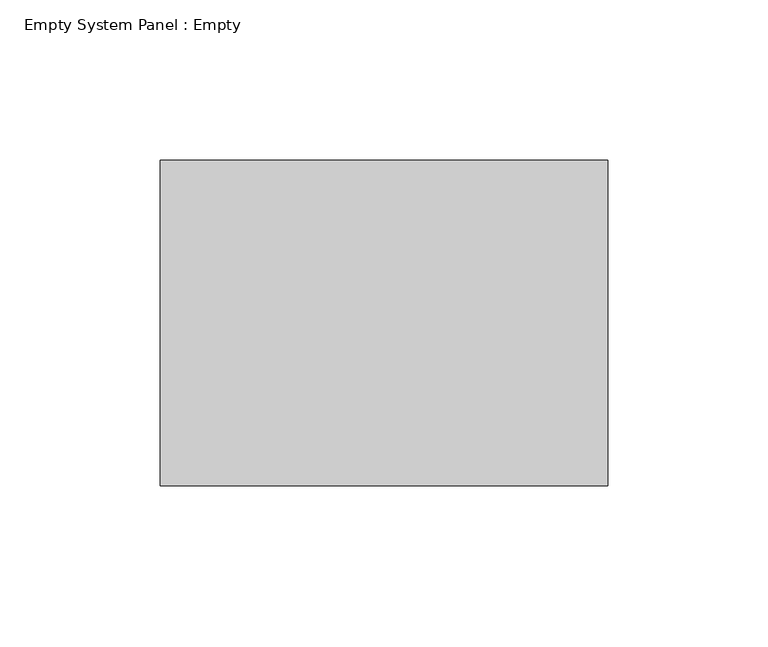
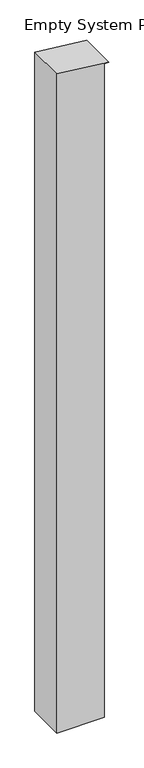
"""IFC4 building model written with IfcOpenShell, lengths in millimetres: plate geometry, Empty System Panel : Empty."""

from ifc_helpers import new_model, si_unit, frame, origin, place, context, project, spatial, polyline, outline, extrude, source, transform, mapped, element, save


def empty_system_panel_empty_9e08e96b(model_context):
    return source(origin(), model_context, "Body", "SweptSolid", [
        extrude(outline(polyline([(0.0, -69.85), (0.0, 57.15), (1854.9822777, 57.15), (1854.9822777, 69.85), (1870.6074677, -69.85), (0.0, -69.85)])), frame((0.0, -50.8, 0.0), z_axis=(0.0, 1.0, 0.0), x_axis=(0.0, 0.0, 1.0)), (0.0, 0.0, 1.0), 101.6),
    ])


if __name__ == "__main__":
    model = new_model("IFC4")
    model_context = context("Model", 3, world=origin())
    ifc_project = project(units=[si_unit("LENGTHUNIT", "METRE", prefix="MILLI")], contexts=[model_context])
    site = spatial("IfcSite", under=ifc_project)
    building = spatial("IfcBuilding", under=site)
    placement = place(None, origin())
    empty_system_panel_empty_shape = empty_system_panel_empty_9e08e96b(model_context)
    element("IfcPlate", 1, ObjectType="Empty System Panel : Empty", at=placement, inside=building, context=model_context, shape_type="MappedRepresentation", body=[
        mapped(empty_system_panel_empty_shape, transform((0.0, 0.0, 0.0), x_axis=(1.0, 0.0, 0.0), y_axis=(0.0, 1.0, 0.0), z_axis=(0.0, 0.0, 1.0))),
    ])
    save(model, "model.ifc")
